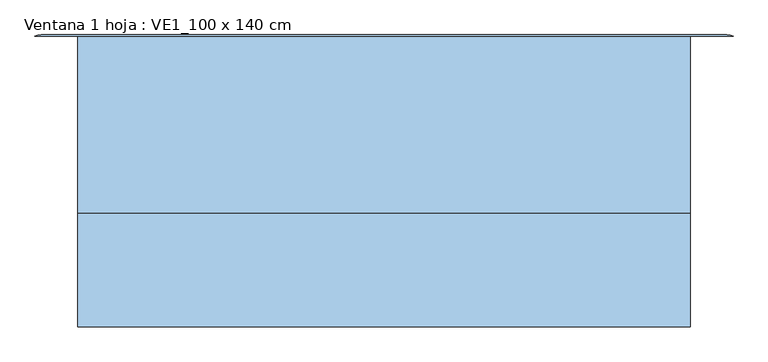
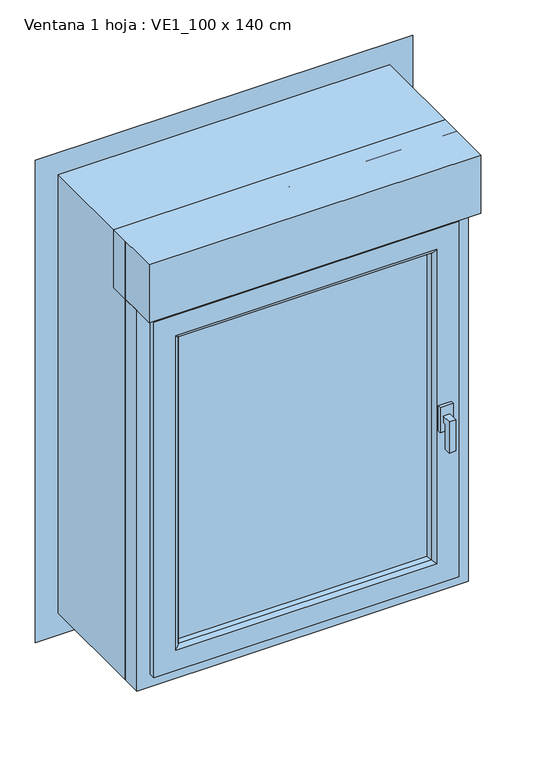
"""IFC4 building model written with IfcOpenShell, lengths in millimetres: window geometry, Ventana 1 hoja : VE1_100 x 140 cm."""

from ifc_helpers import new_model, si_unit, frame, origin, place, context, project, spatial, polyline, ellipse_curve, outline, extrude, source, transform, mapped, element, save
from ifc_brep_helpers import plane_surface, cylinder_surface, advanced_brep


def ventana_1_hoja_ve1_100_x_140_cm_ea734483(model_context):
    return source(origin(), model_context, "Body", "SolidModel", [
        extrude(outline(polyline([(-234.0, 1377.5), (-234.0, 1357.5), (-244.0, 1357.5), (-244.0, 1277.5), (-264.0, 1277.5), (-264.0, 1377.5), (-234.0, 1377.5)])), frame((408.5, 0.0, 0.0), z_axis=(1.0, 0.0, 0.0), x_axis=(0.0, 1.0, 0.0)), (0.0, 0.0, 1.0), 20.0),
        extrude(outline(polyline([(438.5, -234.0), (398.5, -234.0), (398.5, -224.0), (438.5, -224.0), (438.5, -234.0)])), frame((0.0, 0.0, 1327.5), z_axis=(0.0, 0.0, 1.0), x_axis=(1.0, 0.0, 0.0)), (0.0, 0.0, 1.0), 80.0),
        extrude(outline(polyline([(-399.0, -176.0), (399.0, -176.0), (399.0, -206.0), (-399.0, -206.0), (-399.0, -176.0)])), frame((0.0, 0.0, 901.0), z_axis=(0.0, 0.0, 1.0), x_axis=(1.0, 0.0, 0.0)), (0.0, 0.0, 1.0), 1013.0),
        advanced_brep(
        [(-438.0710678, -147.9289322, 1953.0710678), (-445.1421356, -145.0, 1960.1421356), (445.1421356, -145.0, 1960.1421356), (438.0710678, -147.9289322, 1953.0710678), (-431.6213203, -158.0, 1946.6213203), (431.6213203, -158.0, 1946.6213203), (-500.0, -145.0, 2015.0), (-500.0, -205.0, 2015.0), (500.0, -205.0, 2015.0), (500.0, -145.0, 2015.0), (445.1421356, -145.0, 854.8578644), (438.0710678, -147.9289322, 861.9289322), (431.6213203, -158.0, 868.3786797), (500.0, -205.0, 800.0), (500.0, -145.0, 800.0), (-445.1421356, -145.0, 854.8578644), (-438.0710678, -147.9289322, 861.9289322), (-431.6213203, -158.0, 868.3786797), (-500.0, -205.0, 800.0), (-500.0, -145.0, 800.0), (-394.4125193, -158.0, 1909.4125193), (-394.4125193, -158.0, 905.5874807), (394.4125193, -158.0, 905.5874807), (394.4125193, -158.0, 1909.4125193), (460.0, -205.0, 1975.0), (460.0, -205.0, 840.0), (-460.0, -205.0, 840.0), (-460.0, -205.0, 1975.0), (-381.6132918, -165.1782499, 1896.6132918), (381.6132918, -165.1782499, 1896.6132918), (-375.0, -176.0, 1890.0), (375.0, -176.0, 1890.0), (-399.0, -206.0, 1914.0), (-399.0, -176.0, 1914.0), (399.0, -176.0, 1914.0), (399.0, -206.0, 1914.0), (-460.0, -224.0, 1975.0), (460.0, -224.0, 1975.0), (381.6132918, -165.1782499, 918.3867082), (375.0, -176.0, 925.0), (399.0, -176.0, 901.0), (399.0, -206.0, 901.0), (460.0, -224.0, 840.0), (-381.6132918, -165.1782499, 918.3867082), (-375.0, -176.0, 925.0), (-399.0, -176.0, 901.0), (-399.0, -206.0, 901.0), (-460.0, -224.0, 840.0), (394.4125193, -224.0, 1909.4125193), (394.4125193, -224.0, 905.5874807), (-394.4125193, -224.0, 905.5874807), (-394.4125193, -224.0, 1909.4125193), (-381.6132918, -216.8217501, 1896.6132918), (-375.0, -206.0, 1890.0), (375.0, -206.0, 1890.0), (381.6132918, -216.8217501, 1896.6132918), (375.0, -206.0, 925.0), (381.6132918, -216.8217501, 918.3867082), (-375.0, -206.0, 925.0), (-381.6132918, -216.8217501, 918.3867082)],
        [
            (0, 1, ellipse_curve(frame((-445.1421356, -155.0, 1960.1421356), z_axis=(0.7071067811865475, 0.0, 0.7071067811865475), x_axis=(-0.7071067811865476, 0.0, 0.7071067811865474)), 14.1421356, 10.0)),
            (1, 2),
            (2, 3, ellipse_curve(frame((445.1421356, -155.0, 1960.1421356), z_axis=(-0.7071067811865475, 0.0, 0.7071067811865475), x_axis=(-0.7071067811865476, 0.0, -0.7071067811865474)), 14.1421356, 10.0)),
            (3, 0),
            (4, 0),
            (3, 5),
            (5, 4),
            (6, 7),
            (7, 8),
            (8, 9),
            (9, 6),
            (2, 10),
            (10, 11, ellipse_curve(frame((445.1421356, -155.0, 854.8578644), z_axis=(0.7071067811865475, 0.0, 0.7071067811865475), x_axis=(-0.7071067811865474, 0.0, 0.7071067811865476)), 14.1421356, 10.0)),
            (11, 3),
            (11, 12),
            (12, 5),
            (8, 13),
            (13, 14),
            (14, 9),
            (10, 15),
            (15, 16, ellipse_curve(frame((-445.1421356, -155.0, 854.8578644), z_axis=(0.7071067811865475, 0.0, -0.7071067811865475), x_axis=(0.7071067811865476, 0.0, 0.7071067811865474)), 14.1421356, 10.0)),
            (16, 11),
            (16, 17),
            (17, 12),
            (13, 18),
            (18, 19),
            (19, 14),
            (19, 6),
            (1, 15),
            (0, 16),
            (4, 17),
            (20, 21),
            (21, 22),
            (22, 23),
            (23, 20),
            (7, 18),
            (24, 25),
            (25, 26),
            (26, 27),
            (27, 24),
            (28, 20, ellipse_curve(frame((-394.4125193, -173.0, 1909.4125193), z_axis=(0.7071067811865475, 0.0, 0.7071067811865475), x_axis=(-0.7071067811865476, 0.0, 0.7071067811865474)), 21.2132034, 15.0)),
            (23, 29, ellipse_curve(frame((394.4125193, -173.0, 1909.4125193), z_axis=(-0.7071067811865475, 0.0, 0.7071067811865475), x_axis=(-0.7071067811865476, 0.0, -0.7071067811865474)), 21.2132034, 15.0)),
            (29, 28),
            (30, 28),
            (29, 31),
            (31, 30),
            (32, 33),
            (33, 34),
            (34, 35),
            (35, 32),
            (27, 36),
            (36, 37),
            (37, 24),
            (22, 38, ellipse_curve(frame((394.4125193, -173.0, 905.5874807), z_axis=(0.7071067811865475, 0.0, 0.7071067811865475), x_axis=(-0.7071067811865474, 0.0, 0.7071067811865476)), 21.2132034, 15.0)),
            (38, 29),
            (38, 39),
            (39, 31),
            (34, 40),
            (40, 41),
            (41, 35),
            (37, 42),
            (42, 25),
            (21, 43, ellipse_curve(frame((-394.4125193, -173.0, 905.5874807), z_axis=(0.7071067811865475, 0.0, -0.7071067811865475), x_axis=(0.7071067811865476, 0.0, 0.7071067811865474)), 21.2132034, 15.0)),
            (43, 38),
            (43, 44),
            (44, 39),
            (40, 45),
            (45, 46),
            (46, 41),
            (42, 47),
            (47, 26),
            (28, 43),
            (30, 44),
            (33, 45),
            (32, 46),
            (36, 47),
            (48, 49),
            (49, 50),
            (50, 51),
            (51, 48),
            (52, 53),
            (53, 54),
            (54, 55),
            (55, 52),
            (51, 52, ellipse_curve(frame((-394.4125193, -209.0, 1909.4125193), z_axis=(0.7071067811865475, 0.0, 0.7071067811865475), x_axis=(-0.7071067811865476, 0.0, 0.7071067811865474)), 21.2132034, 15.0)),
            (55, 48, ellipse_curve(frame((394.4125193, -209.0, 1909.4125193), z_axis=(-0.7071067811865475, 0.0, 0.7071067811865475), x_axis=(-0.7071067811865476, 0.0, -0.7071067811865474)), 21.2132034, 15.0)),
            (54, 56),
            (56, 57),
            (57, 55),
            (57, 49, ellipse_curve(frame((394.4125193, -209.0, 905.5874807), z_axis=(0.7071067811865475, 0.0, 0.7071067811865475), x_axis=(-0.7071067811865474, 0.0, 0.7071067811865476)), 21.2132034, 15.0)),
            (56, 58),
            (58, 59),
            (59, 57),
            (59, 50, ellipse_curve(frame((-394.4125193, -209.0, 905.5874807), z_axis=(0.7071067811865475, 0.0, -0.7071067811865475), x_axis=(0.7071067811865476, 0.0, 0.7071067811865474)), 21.2132034, 15.0)),
            (53, 58),
            (52, 59),
        ],
        [
            cylinder_surface(frame((-500.0, -155.0, 1960.1421356), z_axis=(-1.0000000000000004, 0.0, 0.0), x_axis=(0.0, 0.0, 1.0)), 10.0),
            plane_surface(frame((-438.0710678, -147.9289322, 1953.0710678), z_axis=(0.0, 0.5393066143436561, -0.8421094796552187), x_axis=(1.0, 0.0, 0.0))),
            plane_surface(frame((-500.0, -205.0, 2015.0), z_axis=(0.0, 0.0, 1.0), x_axis=(1.0, 0.0, 0.0))),
            cylinder_surface(frame((445.1421356, -155.0, 2015.0), z_axis=(0.0, 0.0, 1.0), x_axis=(1.0000000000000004, 0.0, 0.0)), 10.0),
            plane_surface(frame((438.0710678, -147.9289322, 1953.0710678), z_axis=(-0.8421094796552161, 0.5393066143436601, 0.0), x_axis=(0.0, 0.0, -1.0))),
            plane_surface(frame((500.0, -205.0, 2015.0), z_axis=(1.0, 0.0, 0.0), x_axis=(0.0, 0.0, -1.0))),
            cylinder_surface(frame((500.0, -155.0, 854.8578644), z_axis=(1.0000000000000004, 0.0, 0.0), x_axis=(0.0, 0.0, -1.0)), 10.0),
            plane_surface(frame((438.0710678, -147.9289322, 861.9289322), z_axis=(0.0, 0.5393066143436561, 0.8421094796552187), x_axis=(-1.0, 0.0, 0.0))),
            plane_surface(frame((500.0, -205.0, 800.0), z_axis=(0.0, 0.0, -1.0), x_axis=(-1.0, 0.0, 0.0))),
            plane_surface(frame((-500.0, -145.0, 800.0), z_axis=(0.0, 1.0, 0.0), x_axis=(0.0, 0.0, 1.0))),
            cylinder_surface(frame((-445.1421356, -155.0, 800.0), z_axis=(0.0, 0.0, -1.0), x_axis=(-1.0000000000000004, 0.0, 0.0)), 10.0),
            plane_surface(frame((-438.0710678, -147.9289322, 861.9289322), z_axis=(0.842109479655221, 0.5393066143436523, 0.0), x_axis=(0.0, 0.0, 1.0))),
            plane_surface(frame((-431.6213203, -158.0, 868.3786797), z_axis=(0.0, 1.0, 0.0), x_axis=(0.0, 0.0, 1.0))),
            plane_surface(frame((-460.0, -205.0, 840.0), z_axis=(0.0, -1.0, 0.0), x_axis=(0.0, 0.0, 1.0))),
            plane_surface(frame((-500.0, -205.0, 800.0), z_axis=(-1.0, 0.0, 0.0), x_axis=(0.0, 0.0, 1.0))),
            cylinder_surface(frame((-500.0, -173.0, 1909.4125193), z_axis=(-1.0000000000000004, 0.0, 0.0), x_axis=(0.0, 0.0, 1.0)), 15.0),
            plane_surface(frame((-381.6132918, -165.1782499, 1896.6132918), z_axis=(0.0, 0.5214500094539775, -0.8532818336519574), x_axis=(1.0, 0.0, 0.0))),
            plane_surface(frame((-399.0, -176.0, 1914.0), z_axis=(0.0, 0.0, -1.0), x_axis=(1.0, 0.0, 0.0))),
            plane_surface(frame((-460.0, -224.0, 1975.0), z_axis=(0.0, 0.0, 1.0), x_axis=(1.0, 0.0, 0.0))),
            cylinder_surface(frame((394.4125193, -173.0, 2015.0), z_axis=(0.0, 0.0, 1.0), x_axis=(1.0000000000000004, 0.0, 0.0)), 15.0),
            plane_surface(frame((381.6132918, -165.1782499, 1896.6132918), z_axis=(-0.853281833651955, 0.5214500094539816, 0.0), x_axis=(0.0, 0.0, -1.0))),
            plane_surface(frame((399.0, -176.0, 1914.0), z_axis=(-1.0, 0.0, 0.0), x_axis=(0.0, 0.0, -1.0))),
            plane_surface(frame((460.0, -224.0, 1975.0), z_axis=(1.0, 0.0, 0.0), x_axis=(0.0, 0.0, -1.0))),
            cylinder_surface(frame((500.0, -173.0, 905.5874807), z_axis=(1.0000000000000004, 0.0, 0.0), x_axis=(0.0, 0.0, -1.0)), 15.0),
            plane_surface(frame((381.6132918, -165.1782499, 918.3867082), z_axis=(0.0, 0.5214500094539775, 0.8532818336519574), x_axis=(-1.0, 0.0, 0.0))),
            plane_surface(frame((399.0, -176.0, 901.0), z_axis=(0.0, 0.0, 1.0), x_axis=(-1.0, 0.0, 0.0))),
            plane_surface(frame((460.0, -224.0, 840.0), z_axis=(0.0, 0.0, -1.0), x_axis=(-1.0, 0.0, 0.0))),
            cylinder_surface(frame((-394.4125193, -173.0, 800.0), z_axis=(0.0, 0.0, -1.0), x_axis=(-1.0000000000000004, 0.0, 0.0)), 15.0),
            plane_surface(frame((-381.6132918, -165.1782499, 918.3867082), z_axis=(0.8532818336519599, 0.5214500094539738, 0.0), x_axis=(0.0, 0.0, 1.0))),
            plane_surface(frame((-375.0, -176.0, 925.0), z_axis=(0.0, -1.0, 0.0), x_axis=(0.0, 0.0, 1.0))),
            plane_surface(frame((-399.0, -176.0, 901.0), z_axis=(1.0, 0.0, 0.0), x_axis=(0.0, 0.0, 1.0))),
            plane_surface(frame((-394.4125193, -224.0, 905.5874807), z_axis=(0.0, -1.0, 0.0), x_axis=(0.0, 0.0, 1.0))),
            plane_surface(frame((-460.0, -224.0, 840.0), z_axis=(-1.0, 0.0, 0.0), x_axis=(0.0, 0.0, 1.0))),
            plane_surface(frame((-375.0, -206.0, 1890.0), z_axis=(0.0, -0.5214500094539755, -0.8532818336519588), x_axis=(1.0, 0.0, 0.0))),
            cylinder_surface(frame((-500.0, -209.0, 1909.4125193), z_axis=(-1.0000000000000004, 0.0, 0.0), x_axis=(0.0, 0.0, 1.0)), 15.0),
            plane_surface(frame((375.0, -206.0, 1890.0), z_axis=(-0.8532818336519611, -0.5214500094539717, 0.0), x_axis=(0.0, 0.0, -1.0))),
            cylinder_surface(frame((394.4125193, -209.0, 2015.0), z_axis=(0.0, 0.0, 1.0), x_axis=(1.0000000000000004, 0.0, 0.0)), 15.0),
            plane_surface(frame((375.0, -206.0, 925.0), z_axis=(0.0, -0.5214500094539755, 0.8532818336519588), x_axis=(-1.0, 0.0, 0.0))),
            cylinder_surface(frame((500.0, -209.0, 905.5874807), z_axis=(1.0000000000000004, 0.0, 0.0), x_axis=(0.0, 0.0, -1.0)), 15.0),
            plane_surface(frame((-399.0, -206.0, 901.0), z_axis=(0.0, 1.0, 0.0), x_axis=(0.0, 0.0, 1.0))),
            plane_surface(frame((-375.0, -206.0, 925.0), z_axis=(0.8532818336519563, -0.5214500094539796, 0.0), x_axis=(0.0, 0.0, 1.0))),
            cylinder_surface(frame((-394.4125193, -209.0, 800.0), z_axis=(0.0, 0.0, -1.0), x_axis=(-1.0000000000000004, 0.0, 0.0)), 15.0),
        ],
        [
            (0, [[1, 2, 3, 4]]),
            (1, [[5, -4, 6, 7]]),
            (2, [[8, 9, 10, 11]]),
            (3, [[-3, 12, 13, 14]]),
            (4, [[-6, -14, 15, 16]]),
            (5, [[-10, 17, 18, 19]]),
            (6, [[-13, 20, 21, 22]]),
            (7, [[-15, -22, 23, 24]]),
            (8, [[-18, 25, 26, 27]]),
            (9, [[-19, -27, 28, -11], [29, -20, -12, -2]]),
            (10, [[-21, -29, -1, 30]]),
            (11, [[-23, -30, -5, 31]]),
            (12, [[-16, -24, -31, -7], [32, 33, 34, 35]]),
            (13, [[36, -25, -17, -9], [37, 38, 39, 40]]),
            (14, [[-26, -36, -8, -28]]),
            (15, [[41, -35, 42, 43]]),
            (16, [[44, -43, 45, 46]]),
            (17, [[47, 48, 49, 50]]),
            (18, [[51, 52, 53, -40]]),
            (19, [[-42, -34, 54, 55]]),
            (20, [[-45, -55, 56, 57]]),
            (21, [[-49, 58, 59, 60]]),
            (22, [[-53, 61, 62, -37]]),
            (23, [[-54, -33, 63, 64]]),
            (24, [[-56, -64, 65, 66]]),
            (25, [[-59, 67, 68, 69]]),
            (26, [[-62, 70, 71, -38]]),
            (27, [[-63, -32, -41, 72]]),
            (28, [[-65, -72, -44, 73]]),
            (29, [[74, -67, -58, -48], [-57, -66, -73, -46]]),
            (30, [[-68, -74, -47, 75]]),
            (31, [[76, -70, -61, -52], [77, 78, 79, 80]]),
            (32, [[-71, -76, -51, -39]]),
            (33, [[81, 82, 83, 84]]),
            (34, [[85, -84, 86, -80]]),
            (35, [[-83, 87, 88, 89]]),
            (36, [[-86, -89, 90, -77]]),
            (37, [[-88, 91, 92, 93]]),
            (38, [[-90, -93, 94, -78]]),
            (39, [[-60, -69, -75, -50], [95, -91, -87, -82]]),
            (40, [[-92, -95, -81, 96]]),
            (41, [[-94, -96, -85, -79]]),
        ],
    ),
        extrude(outline(polyline([(-500.0, -269.96), (-500.0, -84.98), (500.0, -84.98), (500.0, -269.96), (-500.0, -269.96)])), frame((0.0, 0.0, 2015.0), z_axis=(0.0, 0.0, 1.0), x_axis=(1.0, 0.0, 0.0)), (0.0, 0.0, 1.0), 185.0),
        advanced_brep(
        [(-570.0, 205.0, 2270.0), (-560.0, 207.0119424, 2260.0), (-560.0, 207.0119424, 740.0), (-570.0, 205.0, 730.0), (560.0, 207.0119424, 2260.0), (560.0, 207.0119424, 740.0), (-498.0, 207.0119424, 2198.0), (-498.0, 207.0119424, 802.0), (498.0, 207.0119424, 802.0), (498.0, 207.0119424, 2198.0), (570.0, 205.0, 730.0), (570.0, 205.0, 2270.0), (500.0, 205.0, 2200.0), (500.0, 205.0, 800.0), (-500.0, 205.0, 800.0), (-500.0, 205.0, 2200.0), (-498.0, -145.0, 2198.0), (-498.0, -145.0, 802.0), (498.0, -145.0, 802.0), (498.0, -145.0, 2198.0), (500.0, -145.0, 800.0), (500.0, -145.0, 2200.0), (-500.0, -145.0, 800.0), (-500.0, -145.0, 2200.0)],
        [
            (0, 1, ellipse_curve(frame((-560.0, 181.1543647, 2260.0), z_axis=(-0.7071067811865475, 0.0, -0.7071067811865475), x_axis=(-0.7071067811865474, 0.0, 0.7071067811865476)), 36.568137, 25.8575776)),
            (1, 2),
            (2, 3, ellipse_curve(frame((-560.0, 181.1543647, 740.0), z_axis=(-0.7071067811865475, 0.0, 0.7071067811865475), x_axis=(0.7071067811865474, 0.0, 0.7071067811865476)), 36.568137, 25.8575776)),
            (3, 0),
            (4, 5),
            (5, 2),
            (1, 4),
            (6, 7),
            (7, 8),
            (8, 9),
            (9, 6),
            (5, 10, ellipse_curve(frame((560.0, 181.1543647, 740.0), z_axis=(-0.7071067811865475, 0.0, -0.7071067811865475), x_axis=(-0.7071067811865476, 0.0, 0.7071067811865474)), 36.568137, 25.8575776)),
            (10, 3),
            (10, 11),
            (11, 0),
            (12, 13),
            (13, 14),
            (14, 15),
            (15, 12),
            (4, 11, ellipse_curve(frame((560.0, 181.1543647, 2260.0), z_axis=(0.7071067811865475, 0.0, -0.7071067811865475), x_axis=(-0.7071067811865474, 0.0, -0.7071067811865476)), 36.568137, 25.8575776)),
            (6, 16),
            (16, 17),
            (17, 7),
            (17, 18),
            (18, 8),
            (18, 19),
            (19, 9),
            (20, 13),
            (12, 21),
            (21, 20),
            (22, 14),
            (20, 22),
            (23, 15),
            (22, 23),
            (21, 23),
            (16, 19),
        ],
        [
            cylinder_surface(frame((-560.0, 181.1543647, 2200.0), z_axis=(0.0, 0.0, 1.0), x_axis=(0.0, 1.0, 0.0)), 25.8575776),
            plane_surface(frame((498.0, 207.0119424, 802.0), z_axis=(0.0, 1.0, 0.0), x_axis=(0.0, 0.0, 1.0))),
            cylinder_surface(frame((-500.0, 181.1543647, 740.0), z_axis=(-1.0, 0.0, 0.0), x_axis=(0.0, 1.0, 0.0)), 25.8575776),
            plane_surface(frame((570.0, 205.0, 730.0), z_axis=(0.0, -1.0, 0.0), x_axis=(0.0, 0.0, 1.0))),
            cylinder_surface(frame((560.0, 181.1543647, 800.0), z_axis=(0.0, 0.0, -1.0), x_axis=(0.0, 1.0, 0.0)), 25.8575776),
            plane_surface(frame((-498.0, -145.0, 2198.0), z_axis=(1.0, 0.0, 0.0), x_axis=(0.0, 0.0, -1.0))),
            plane_surface(frame((-498.0, -145.0, 802.0), z_axis=(0.0, 0.0, 1.0), x_axis=(1.0, 0.0, 0.0))),
            plane_surface(frame((498.0, -145.0, 802.0), z_axis=(-1.0, 0.0, 0.0), x_axis=(0.0, 0.0, 1.0))),
            plane_surface(frame((500.0, 205.0, 800.0), z_axis=(1.0, 0.0, 0.0), x_axis=(0.0, 0.0, 1.0))),
            plane_surface(frame((-500.0, 205.0, 800.0), z_axis=(0.0, 0.0, -1.0), x_axis=(1.0, 0.0, 0.0))),
            plane_surface(frame((-500.0, 205.0, 2200.0), z_axis=(-1.0, 0.0, 0.0), x_axis=(0.0, 0.0, -1.0))),
            plane_surface(frame((500.0, -145.0, 800.0), z_axis=(0.0, -1.0, 0.0), x_axis=(0.0, 0.0, 1.0))),
            cylinder_surface(frame((500.0, 181.1543647, 2260.0), z_axis=(1.0, 0.0, 0.0), x_axis=(0.0, 1.0, 0.0)), 25.8575776),
            plane_surface(frame((498.0, -145.0, 2198.0), z_axis=(0.0, 0.0, -1.0), x_axis=(-1.0, 0.0, 0.0))),
            plane_surface(frame((500.0, 205.0, 2200.0), z_axis=(0.0, 0.0, 1.0), x_axis=(-1.0, 0.0, 0.0))),
        ],
        [
            (0, [[1, 2, 3, 4]]),
            (1, [[5, 6, -2, 7], [8, 9, 10, 11]]),
            (2, [[-3, -6, 12, 13]]),
            (3, [[-4, -13, 14, 15], [16, 17, 18, 19]]),
            (4, [[-12, -5, 20, -14]]),
            (5, [[21, 22, 23, -8]]),
            (6, [[-23, 24, 25, -9]]),
            (7, [[-25, 26, 27, -10]]),
            (8, [[28, -16, 29, 30]]),
            (9, [[31, -17, -28, 32]]),
            (10, [[33, -18, -31, 34]]),
            (11, [[-34, -32, -30, 35], [-26, -24, -22, 36]]),
            (12, [[-20, -7, -1, -15]]),
            (13, [[-27, -36, -21, -11]]),
            (14, [[-29, -19, -33, -35]]),
        ],
    ),
    ])


if __name__ == "__main__":
    model = new_model("IFC4")
    model_context = context("Model", 3, world=origin())
    ifc_project = project(units=[si_unit("LENGTHUNIT", "METRE", prefix="MILLI")], contexts=[model_context])
    site = spatial("IfcSite", under=ifc_project)
    building = spatial("IfcBuilding", under=site)
    placement = place(None, origin())
    ventana_1_hoja_ve1_100_x_140_cm_shape = ventana_1_hoja_ve1_100_x_140_cm_ea734483(model_context)
    element("IfcWindow", 1, ObjectType="Ventana 1 hoja : VE1_100 x 140 cm", at=placement, inside=building, context=model_context, shape_type="MappedRepresentation", body=[
        mapped(ventana_1_hoja_ve1_100_x_140_cm_shape, transform((0.0, 0.0, 0.0), x_axis=(1.0, 0.0, 0.0), y_axis=(0.0, 1.0, 0.0), z_axis=(0.0, 0.0, 1.0))),
    ])
    save(model, "model.ifc")
